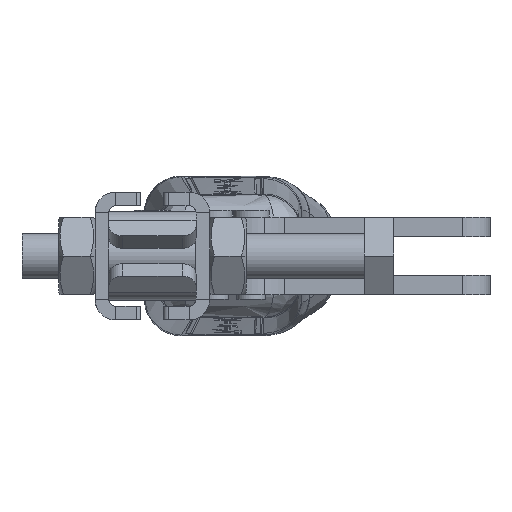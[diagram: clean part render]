
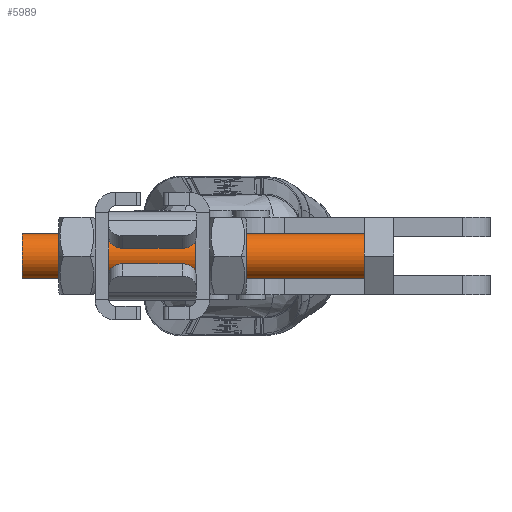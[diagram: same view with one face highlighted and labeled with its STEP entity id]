
A CAD part, left-side view. The second image highlights one B-rep face of the part: STEP entity #5989.
In plain terms, the highlighted cylindrical face has radius 5 mm (diameter 10 mm), a partial arc.
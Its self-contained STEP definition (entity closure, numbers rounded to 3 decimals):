
#13 = DIRECTION ( 'NONE',  ( 0., 0., 1. ) ) ;
#105 = EDGE_CURVE ( 'NONE', #7236, #5659, #10686, .T. ) ;
#212 = DIRECTION ( 'NONE',  ( 0., 0., -1. ) ) ;
#1147 = DIRECTION ( 'NONE',  ( 0., 0., 1. ) ) ;
#1174 = FACE_OUTER_BOUND ( 'NONE', #3394, .T. ) ;
#1258 = DIRECTION ( 'NONE',  ( 0., -1., 0. ) ) ;
#1319 = CARTESIAN_POINT ( 'NONE',  ( 0., 0., 0. ) ) ;
#1977 = DIRECTION ( 'NONE',  ( 0., 1., 0. ) ) ;
#2406 = CIRCLE ( 'NONE', #19817, 5. ) ;
#3142 = ORIENTED_EDGE ( 'NONE', *, *, #13760, .F. ) ;
#3349 = VECTOR ( 'NONE', #4043, 1000. ) ;
#3394 = EDGE_LOOP ( 'NONE', ( #6367, #3142, #11305, #7531 ) ) ;
#4043 = DIRECTION ( 'NONE',  ( 0., 1., 0. ) ) ;
#5659 = VERTEX_POINT ( 'NONE', #18115 ) ;
#5989 = ADVANCED_FACE ( 'NONE', ( #1174 ), #16158, .T. ) ;
#6367 = ORIENTED_EDGE ( 'NONE', *, *, #18577, .F. ) ;
#7236 = VERTEX_POINT ( 'NONE', #18517 ) ;
#7531 = ORIENTED_EDGE ( 'NONE', *, *, #105, .T. ) ;
#8190 = VECTOR ( 'NONE', #11322, 1000. ) ;
#8206 = CARTESIAN_POINT ( 'NONE',  ( 0., -75., -5. ) ) ;
#10686 = CIRCLE ( 'NONE', #15269, 5. ) ;
#11305 = ORIENTED_EDGE ( 'NONE', *, *, #13151, .T. ) ;
#11322 = DIRECTION ( 'NONE',  ( 0., 1., 0. ) ) ;
#11404 = CARTESIAN_POINT ( 'NONE',  ( 0., -75., -5. ) ) ;
#11418 = AXIS2_PLACEMENT_3D ( 'NONE', #15555, #1977, #13 ) ;
#11911 = DIRECTION ( 'NONE',  ( 0., -1., 0. ) ) ;
#12110 = VERTEX_POINT ( 'NONE', #13759 ) ;
#12741 = LINE ( 'NONE', #11404, #8190 ) ;
#13151 = EDGE_CURVE ( 'NONE', #12110, #7236, #24586, .T. ) ;
#13759 = CARTESIAN_POINT ( 'NONE',  ( 0., -75., 5. ) ) ;
#13760 = EDGE_CURVE ( 'NONE', #12110, #14281, #2406, .T. ) ;
#14281 = VERTEX_POINT ( 'NONE', #8206 ) ;
#15269 = AXIS2_PLACEMENT_3D ( 'NONE', #1319, #1258, #1147 ) ;
#15555 = CARTESIAN_POINT ( 'NONE',  ( 0., -75., 0. ) ) ;
#16158 = CYLINDRICAL_SURFACE ( 'NONE', #11418, 5. ) ;
#18115 = CARTESIAN_POINT ( 'NONE',  ( 0., 0., -5. ) ) ;
#18517 = CARTESIAN_POINT ( 'NONE',  ( 0., 0., 5. ) ) ;
#18577 = EDGE_CURVE ( 'NONE', #14281, #5659, #12741, .T. ) ;
#19817 = AXIS2_PLACEMENT_3D ( 'NONE', #23478, #11911, #212 ) ;
#23348 = CARTESIAN_POINT ( 'NONE',  ( 0., -75., 5. ) ) ;
#23478 = CARTESIAN_POINT ( 'NONE',  ( 0., -75., 0. ) ) ;
#24586 = LINE ( 'NONE', #23348, #3349 ) ;
